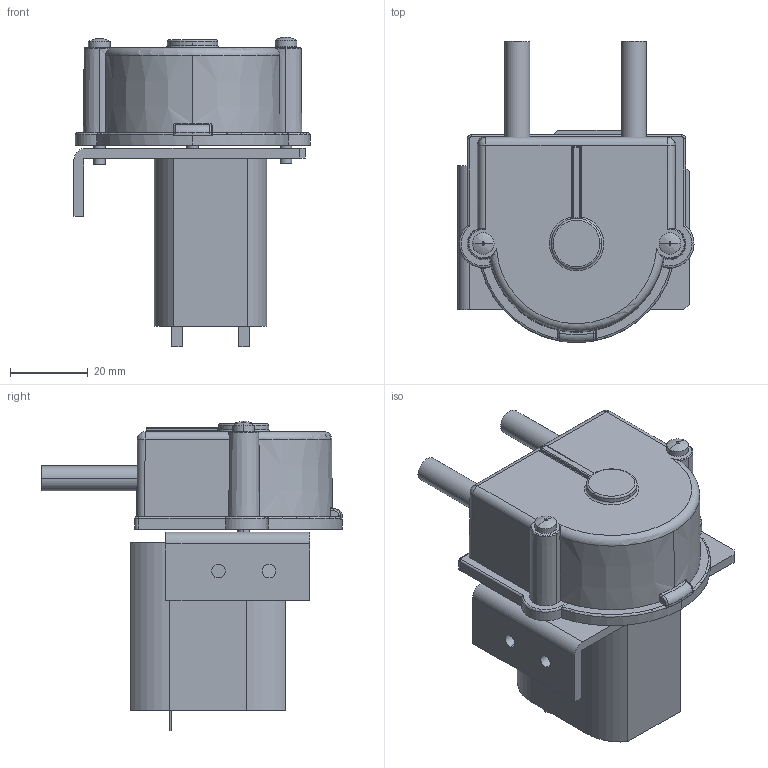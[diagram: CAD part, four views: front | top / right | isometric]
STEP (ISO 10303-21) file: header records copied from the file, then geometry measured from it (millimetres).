
FILE_DESCRIPTION (( 'STEP AP203' ), '1' );
FILE_NAME ('200 series dc b motor.STEP', '2024-07-09T13:33:28', ( '' ), ( '' ), 'SwSTEP 2.0', 'SolidWorks 2017', '' );
FILE_SCHEMA (( 'CONFIG_CONTROL_DESIGN' ));
Length unit declared in the file: millimetre
Products named in the file (10): 52411-2 NEW 200 SERIES BACK PLATE_1; 52413-1 NEW 200 SERIES 3mm TUBE STOP_1; 200 series dc b  motor; tube_1; 1_61_065_423; 52412-2 NEW 200 SERIES BODY_1; m3 x 30 screw; 200 series pump head; 2; screw_gbt_15856_1_st3_5x16_z_1
Assembly tree (11 placements, depth 3):
  200 series dc b  motor
    1_61_065_423
    2
    200 series pump head
      52412-2 NEW 200 SERIES BODY_1
      52411-2 NEW 200 SERIES BACK PLATE_1
      52413-1 NEW 200 SERIES 3mm TUBE STOP_1  x2
      tube_1
      screw_gbt_15856_1_st3_5x16_z_1
    m3 x 30 screw  x2
Bounding box: 60.7 x 77.38 x 79.56 mm (x, y, z)
Volume: 82336.2 mm3; surface area: 41337.3 mm2
Topology: 10 solids, 10 shells, 655 faces, 1646 edges, 1035 vertices
Faces by surface type: plane 236, cylinder 223, cone 91, torus 70, bspline 28, sphere 7
Entity records: 21987 total; most frequent: CARTESIAN_POINT 6221, DIRECTION 3089, ORIENTED_EDGE 3080, EDGE_CURVE 1540, AXIS2_PLACEMENT_3D 1177, VERTEX_POINT 969, VECTOR 735, LINE 735
